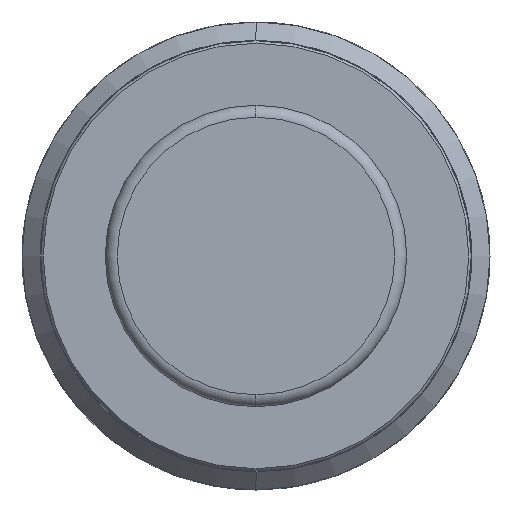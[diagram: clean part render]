
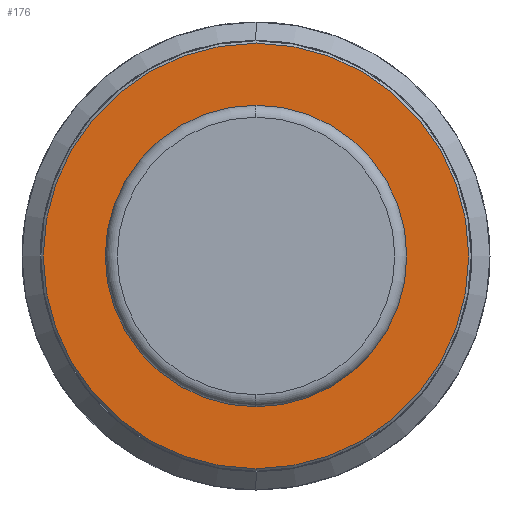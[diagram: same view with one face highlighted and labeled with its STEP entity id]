
A CAD part, left-side view. The second image highlights one B-rep face of the part: STEP entity #176.
In plain terms, the highlighted planar face has unit normal (-1, 0, 0).
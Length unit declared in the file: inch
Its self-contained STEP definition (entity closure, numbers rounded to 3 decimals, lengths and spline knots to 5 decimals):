
#176 = ADVANCED_FACE ( 'NONE', ( #6165, #6167 ), #611, .F. ) ;
#374 = EDGE_CURVE ( 'NONE', #1213, #1222, #2963, .T. ) ;
#380 = EDGE_CURVE ( 'NONE', #1209, #1203, #3412, .T. ) ;
#384 = EDGE_CURVE ( 'NONE', #1203, #1209, #2928, .T. ) ;
#386 = EDGE_CURVE ( 'NONE', #1222, #1213, #2758, .T. ) ;
#611 = PLANE ( 'NONE',  #672 ) ;
#672 = AXIS2_PLACEMENT_3D ( 'NONE', #3557, #3558, #3559 ) ;
#950 = EDGE_LOOP ( 'NONE', ( #2027, #2060 ) ) ;
#1029 = EDGE_LOOP ( 'NONE', ( #2034, #2026 ) ) ;
#1203 = VERTEX_POINT ( 'NONE', #2594 ) ;
#1209 = VERTEX_POINT ( 'NONE', #2600 ) ;
#1213 = VERTEX_POINT ( 'NONE', #2604 ) ;
#1222 = VERTEX_POINT ( 'NONE', #2613 ) ;
#2026 = ORIENTED_EDGE ( 'NONE', *, *, #386, .F. ) ;
#2027 = ORIENTED_EDGE ( 'NONE', *, *, #384, .T. ) ;
#2034 = ORIENTED_EDGE ( 'NONE', *, *, #374, .F. ) ;
#2060 = ORIENTED_EDGE ( 'NONE', *, *, #380, .T. ) ;
#2594 = CARTESIAN_POINT ( 'NONE',  ( -1.945, 0., -0.225 ) ) ;
#2600 = CARTESIAN_POINT ( 'NONE',  ( -1.945, 0., 0.225 ) ) ;
#2604 = CARTESIAN_POINT ( 'NONE',  ( -1.945, 0., -0.441 ) ) ;
#2613 = CARTESIAN_POINT ( 'NONE',  ( -1.945, 0., 0.441 ) ) ;
#2758 = CIRCLE ( 'NONE', #2862, 0.441 ) ;
#2847 = AXIS2_PLACEMENT_3D ( 'NONE', #5106, #5107, #5108 ) ;
#2862 = AXIS2_PLACEMENT_3D ( 'NONE', #5112, #5113, #5114 ) ;
#2910 = AXIS2_PLACEMENT_3D ( 'NONE', #5097, #5098, #5099 ) ;
#2928 = CIRCLE ( 'NONE', #2847, 0.225 ) ;
#2963 = CIRCLE ( 'NONE', #3272, 0.441 ) ;
#3272 = AXIS2_PLACEMENT_3D ( 'NONE', #5078, #5079, #5080 ) ;
#3412 = CIRCLE ( 'NONE', #2910, 0.225 ) ;
#3557 = CARTESIAN_POINT ( 'NONE',  ( -1.945, 0., 0. ) ) ;
#3558 = DIRECTION ( 'NONE',  ( 1., 0., 0. ) ) ;
#3559 = DIRECTION ( 'NONE',  ( 0., 0., -1. ) ) ;
#5078 = CARTESIAN_POINT ( 'NONE',  ( -1.945, 0., 0. ) ) ;
#5079 = DIRECTION ( 'NONE',  ( 1., 0., 0. ) ) ;
#5080 = DIRECTION ( 'NONE',  ( 0., 0., -1. ) ) ;
#5097 = CARTESIAN_POINT ( 'NONE',  ( -1.945, 0., 0. ) ) ;
#5098 = DIRECTION ( 'NONE',  ( 1., 0., 0. ) ) ;
#5099 = DIRECTION ( 'NONE',  ( 0., 0., -1. ) ) ;
#5106 = CARTESIAN_POINT ( 'NONE',  ( -1.945, 0., 0. ) ) ;
#5107 = DIRECTION ( 'NONE',  ( 1., 0., 0. ) ) ;
#5108 = DIRECTION ( 'NONE',  ( 0., 0., -1. ) ) ;
#5112 = CARTESIAN_POINT ( 'NONE',  ( -1.945, 0., 0. ) ) ;
#5113 = DIRECTION ( 'NONE',  ( 1., 0., 0. ) ) ;
#5114 = DIRECTION ( 'NONE',  ( 0., 0., -1. ) ) ;
#6165 = FACE_OUTER_BOUND ( 'NONE', #1029, .T. ) ;
#6167 = FACE_BOUND ( 'NONE', #950, .T. ) ;
